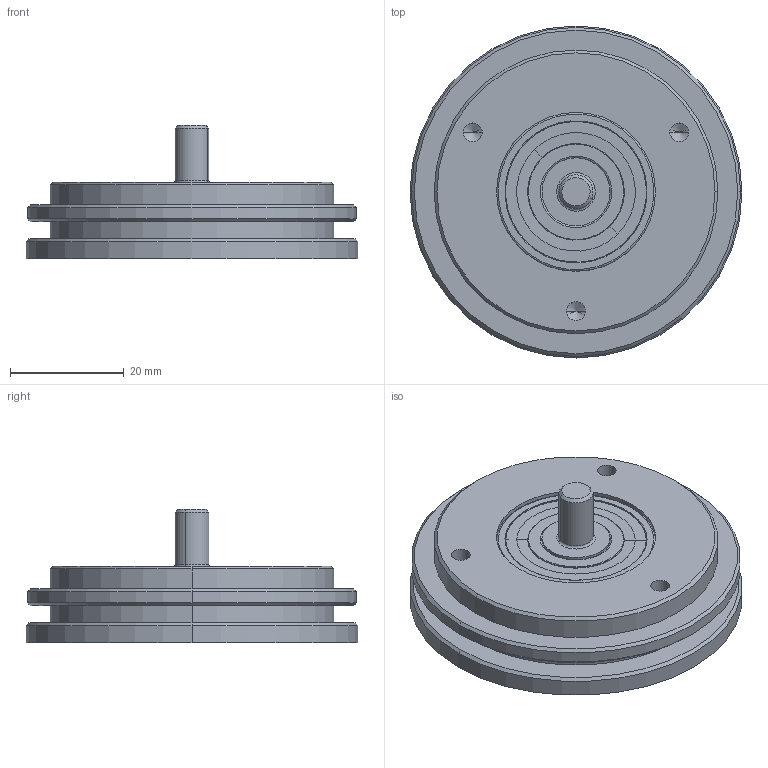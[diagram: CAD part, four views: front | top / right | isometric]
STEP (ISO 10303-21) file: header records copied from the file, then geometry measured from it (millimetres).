
FILE_DESCRIPTION (( 'STEP AP214' ), '1' );
FILE_NAME ('OCD-S060-C5Y-N.STEP', '2013-02-25T14:40:18', ( '' ), ( '' ), 'SwSTEP 2.0', 'SolidWorks 2006104', '' );
FILE_SCHEMA (( 'AUTOMOTIVE_DESIGN' ));
Length unit declared in the file: millimetre
Products named in the file (1): OCD-S060-C5Y-N
Bounding box: 58.5 x 58.5 x 23.5 mm (x, y, z)
Volume: 27906.5 mm3; surface area: 14453.2 mm2
Topology: 4 solids, 10 shells, 155 faces, 318 edges, 178 vertices
Faces by surface type: cylinder 54, torus 42, cone 36, plane 23
Entity records: 5736 total; most frequent: DIRECTION 826, CARTESIAN_POINT 636, ORIENTED_EDGE 604, AXIS2_PLACEMENT_3D 368, EDGE_CURVE 302, CIRCLE 212, VERTEX_POINT 178, EDGE_LOOP 174
